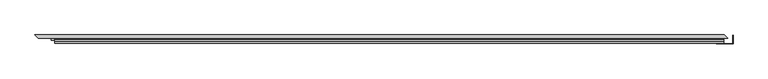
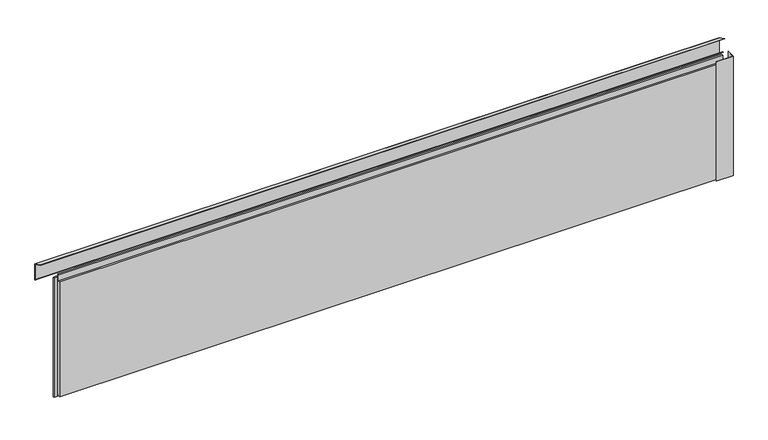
"""IFC4 building model written with IfcOpenShell, lengths in millimetres: plate geometry, Trimo_Qbiss Screen_Normal Panel-HORIZONTAL : HR - B."""

from ifc_helpers import new_model, si_unit, frame, origin, place, context, project, spatial, polyline, outline, extrude, faceted_brep, source, transform, mapped, element, save


def plate_443b5565(model_context):
    return source(origin(), model_context, "Body", "SolidModel", [
        faceted_brep([(1939.1421356, 85.8578644, 762.3421356), (1925.0, 100.0, 748.2), (1925.0, 100.0, 848.2), (1944.9307219, 80.0692781, 847.1554751), (1944.9307219, 80.0692781, 846.3543772), (1925.8, 99.2, 847.3569759), (1925.8, 99.2, 750.1313708), (1938.5764502, 86.4235498, 762.907821), (-2110.8578644, 85.8578644, 762.3421356), (-2125.0, 100.0, 748.2), (-2111.4235498, 86.4235498, 762.907821), (-2124.2, 99.2, 750.1313708), (-2124.2, 99.2, 847.3569759), (-2105.0692781, 80.0692781, 846.3543772), (-2105.0692781, 80.0692781, 847.1554751), (-2125.0, 100.0, 848.2)], [[[0, 1, 2, 3, 4, 5, 6, 7]], [[1, 0, 8, 9]], [[0, 7, 10, 8]], [[7, 6, 11, 10]], [[6, 5, 12, 11]], [[5, 4, 13, 12]], [[4, 3, 14, 13]], [[3, 2, 15, 14]], [[2, 1, 9, 15]], [[9, 8, 10, 11, 12, 13, 14, 15]]]),
        extrude(outline(polyline([(1877.7, 49.0), (1976.0, 49.0), (1976.0, 98.3), (1976.8, 98.3), (1976.8, 48.2), (1877.7, 48.2), (1877.7, 49.0)])), frame((0.0, 0.0, -1.0), z_axis=(0.0, 0.0, 1.0), x_axis=(1.0, 0.0, 0.0)), (0.0, 0.0, 1.0), 748.2),
        extrude(outline(polyline([(-2011.0, 76.5978162), (-2011.0, 67.8978162), (-2030.0, 67.8978162), (-2030.0, 76.5978162), (-2011.0, 76.5978162)])), frame((0.0, 0.0, -1.0), z_axis=(0.0, 0.0, 1.0), x_axis=(1.0, 0.0, 0.0)), (0.0, 0.0, 1.0), 748.2),
        extrude(outline(polyline([(1923.0, 76.0), (1923.0, 71.0), (-2008.0, 71.0), (-2008.0, 76.0), (1923.0, 76.0)])), frame((0.0, 0.0, 726.2), z_axis=(0.0, 0.0, 1.0), x_axis=(1.0, 0.0, 0.0)), (0.0, 0.0, 1.0), 21.0),
        extrude(outline(polyline([(71.0, 725.2), (100.0, 725.2), (100.0, 0.0), (72.0, 0.0), (72.0, 15.5), (62.0, 15.5), (62.0, 7.0), (50.0, 7.0), (50.0, 725.2), (63.0, 725.2), (63.0, 762.7), (71.0, 762.7), (71.0, 725.2)])), frame((-2008.0, 0.0, 0.0), z_axis=(1.0, 0.0, 0.0), x_axis=(0.0, 1.0, 0.0)), (0.0, 0.0, 1.0), 3931.0),
    ])


if __name__ == "__main__":
    model = new_model("IFC4")
    model_context = context("Model", 3, world=origin())
    ifc_project = project(units=[si_unit("LENGTHUNIT", "METRE", prefix="MILLI")], contexts=[model_context])
    site = spatial("IfcSite", under=ifc_project)
    building = spatial("IfcBuilding", under=site)
    placement = place(None, origin())
    plate_shape = plate_443b5565(model_context)
    element("IfcPlate", 1, ObjectType="Trimo_Qbiss Screen_Normal Panel-HORIZONTAL : HR - B", at=placement, inside=building, context=model_context, shape_type="MappedRepresentation", body=[
        mapped(plate_shape, transform((0.0, 0.0, 0.0), x_axis=(1.0, 0.0, 0.0), y_axis=(0.0, 1.0, 0.0), z_axis=(0.0, 0.0, 1.0))),
    ])
    save(model, "model.ifc")
